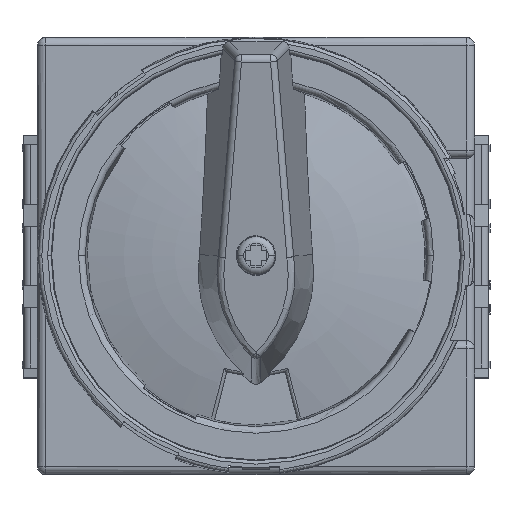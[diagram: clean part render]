
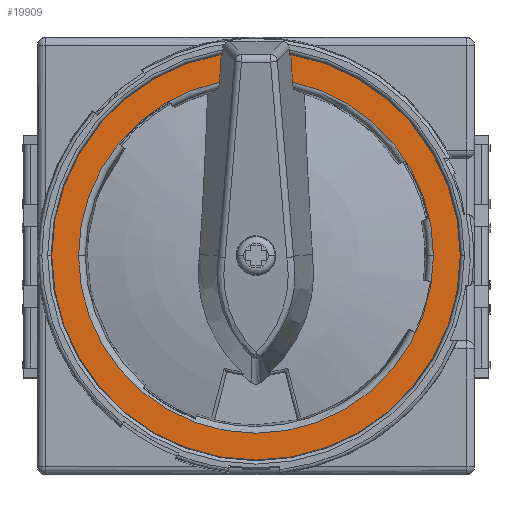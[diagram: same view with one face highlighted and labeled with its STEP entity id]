
A CAD part, top view. The second image highlights one B-rep face of the part: STEP entity #19909.
In plain terms, the highlighted planar face has unit normal (0, 0, 1).
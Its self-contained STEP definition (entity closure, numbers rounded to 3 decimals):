
#224 = DIRECTION ( 'NONE',  ( 0., -1., 0. ) ) ;
#3472 = VERTEX_POINT ( 'NONE', #31512 ) ;
#4597 = CARTESIAN_POINT ( 'NONE',  ( 8.343, 368.463, 91.7 ) ) ;
#5146 = VERTEX_POINT ( 'NONE', #51721 ) ;
#5470 = AXIS2_PLACEMENT_3D ( 'NONE', #8736, #29858, #8405 ) ;
#6514 = DIRECTION ( 'NONE',  ( 0., 0., 1. ) ) ;
#7975 = CARTESIAN_POINT ( 'NONE',  ( 3., 343.042, 91.7 ) ) ;
#8405 = DIRECTION ( 'NONE',  ( 1., 0., 0. ) ) ;
#8736 = CARTESIAN_POINT ( 'NONE',  ( 3., 343.042, 91.7 ) ) ;
#8939 = CIRCLE ( 'NONE', #47656, 25.976 ) ;
#8948 = DIRECTION ( 'NONE',  ( 1., 0., 0. ) ) ;
#8984 = DIRECTION ( 'NONE',  ( 0., -1., 0. ) ) ;
#11349 = PLANE ( 'NONE',  #65229 ) ;
#11701 = FACE_OUTER_BOUND ( 'NONE', #52402, .T. ) ;
#12246 = ORIENTED_EDGE ( 'NONE', *, *, #64788, .F. ) ;
#12930 = DIRECTION ( 'NONE',  ( -0.063, 0.998, 0. ) ) ;
#14140 = DIRECTION ( 'NONE',  ( 0., 0., -1. ) ) ;
#14526 = CIRCLE ( 'NONE', #48904, 25.976 ) ;
#17351 = CARTESIAN_POINT ( 'NONE',  ( 3., 343.042, 91.7 ) ) ;
#18109 = LINE ( 'NONE', #60403, #30946 ) ;
#19654 = CIRCLE ( 'NONE', #46233, 29.9 ) ;
#19717 = CARTESIAN_POINT ( 'NONE',  ( -2.086, 372.506, 91.7 ) ) ;
#19909 = ADVANCED_FACE ( 'NONE', ( #11701 ), #11349, .T. ) ;
#20649 = EDGE_CURVE ( 'NONE', #29734, #5146, #33722, .T. ) ;
#22019 = EDGE_CURVE ( 'NONE', #65106, #22756, #14526, .T. ) ;
#22075 = DIRECTION ( 'NONE',  ( -1., 0., 0. ) ) ;
#22756 = VERTEX_POINT ( 'NONE', #47685 ) ;
#23684 = CARTESIAN_POINT ( 'NONE',  ( -22.976, 343.042, 91.7 ) ) ;
#27644 = CIRCLE ( 'NONE', #5470, 25.976 ) ;
#28308 = ORIENTED_EDGE ( 'NONE', *, *, #20649, .F. ) ;
#29175 = DIRECTION ( 'NONE',  ( -0.063, -0.998, 0. ) ) ;
#29734 = VERTEX_POINT ( 'NONE', #19717 ) ;
#29858 = DIRECTION ( 'NONE',  ( 0., 0., -1. ) ) ;
#30946 = VECTOR ( 'NONE', #12930, 1000. ) ;
#31354 = EDGE_CURVE ( 'NONE', #22756, #32019, #8939, .T. ) ;
#31512 = CARTESIAN_POINT ( 'NONE',  ( 8.086, 372.506, 91.7 ) ) ;
#31713 = ORIENTED_EDGE ( 'NONE', *, *, #63547, .F. ) ;
#32019 = VERTEX_POINT ( 'NONE', #23684 ) ;
#33722 = LINE ( 'NONE', #55537, #43174 ) ;
#36644 = CIRCLE ( 'NONE', #49968, 29.9 ) ;
#36656 = EDGE_CURVE ( 'NONE', #47661, #29734, #19654, .T. ) ;
#37107 = DIRECTION ( 'NONE',  ( 0., 0., -1. ) ) ;
#38094 = ORIENTED_EDGE ( 'NONE', *, *, #22019, .T. ) ;
#39092 = CARTESIAN_POINT ( 'NONE',  ( 3., 313.142, 91.7 ) ) ;
#40126 = ORIENTED_EDGE ( 'NONE', *, *, #63704, .T. ) ;
#41422 = DIRECTION ( 'NONE',  ( 0., 0., -1. ) ) ;
#43174 = VECTOR ( 'NONE', #29175, 1000. ) ;
#44268 = CARTESIAN_POINT ( 'NONE',  ( 32.9, 343.042, 91.7 ) ) ;
#46233 = AXIS2_PLACEMENT_3D ( 'NONE', #67763, #41422, #224 ) ;
#47656 = AXIS2_PLACEMENT_3D ( 'NONE', #61599, #14140, #8948 ) ;
#47661 = VERTEX_POINT ( 'NONE', #39092 ) ;
#47685 = CARTESIAN_POINT ( 'NONE',  ( 28.976, 343.042, 91.7 ) ) ;
#48904 = AXIS2_PLACEMENT_3D ( 'NONE', #17351, #37107, #64107 ) ;
#49968 = AXIS2_PLACEMENT_3D ( 'NONE', #7975, #50930, #8984 ) ;
#50930 = DIRECTION ( 'NONE',  ( 0., 0., -1. ) ) ;
#51721 = CARTESIAN_POINT ( 'NONE',  ( -2.343, 368.463, 91.7 ) ) ;
#52402 = EDGE_LOOP ( 'NONE', ( #31713, #38094, #61795, #40126, #28308, #57608, #12246 ) ) ;
#55537 = CARTESIAN_POINT ( 'NONE',  ( -3.809, 345.372, 91.7 ) ) ;
#57608 = ORIENTED_EDGE ( 'NONE', *, *, #36656, .F. ) ;
#60403 = CARTESIAN_POINT ( 'NONE',  ( 9.954, 343.086, 91.7 ) ) ;
#61599 = CARTESIAN_POINT ( 'NONE',  ( 3., 343.042, 91.7 ) ) ;
#61795 = ORIENTED_EDGE ( 'NONE', *, *, #31354, .T. ) ;
#63547 = EDGE_CURVE ( 'NONE', #65106, #3472, #18109, .T. ) ;
#63704 = EDGE_CURVE ( 'NONE', #32019, #5146, #27644, .T. ) ;
#64107 = DIRECTION ( 'NONE',  ( 1., 0., 0. ) ) ;
#64788 = EDGE_CURVE ( 'NONE', #3472, #47661, #36644, .T. ) ;
#65106 = VERTEX_POINT ( 'NONE', #4597 ) ;
#65229 = AXIS2_PLACEMENT_3D ( 'NONE', #44268, #6514, #22075 ) ;
#67763 = CARTESIAN_POINT ( 'NONE',  ( 3., 343.042, 91.7 ) ) ;
